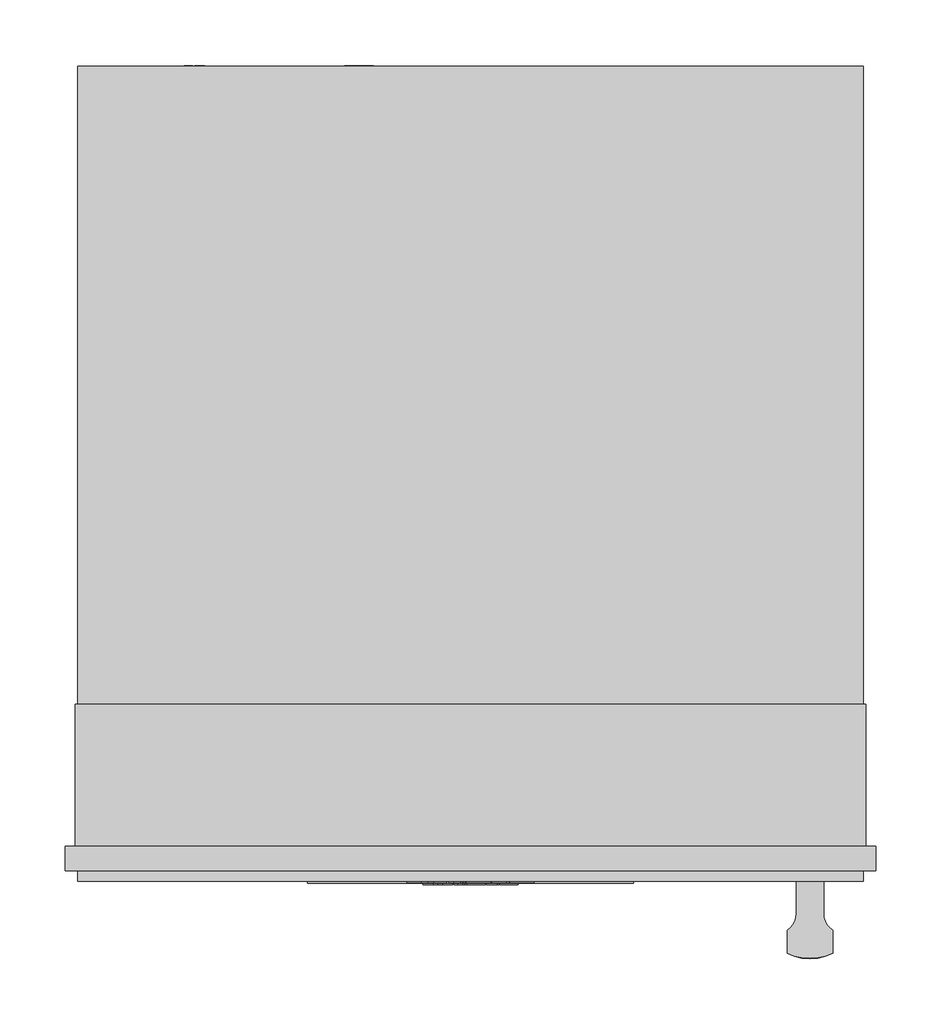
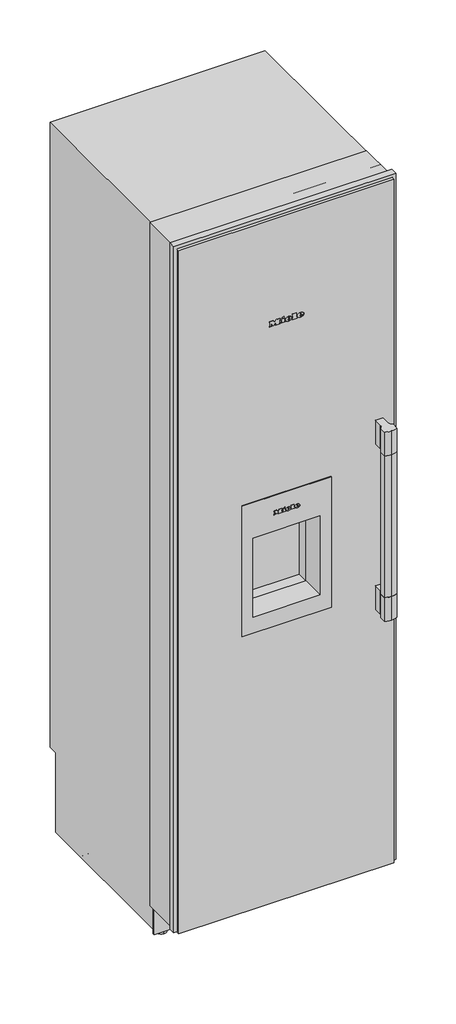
# Not in any storey: 1 proxy.
"""IFC4 building model written with IfcOpenShell, lengths in millimetres."""

from ifc_helpers import new_model, si_unit, origin, place, context, project, spatial, transform, mapped, element, save
from components import specialty_equipment_fe4ad40c

model = new_model("IFC4")

# Units and contexts
model_context = context("Model", 3, world=origin())
ifc_project = project(units=[si_unit("LENGTHUNIT", "METRE", prefix="MILLI")], contexts=[model_context])

# Site, building
site = spatial("IfcSite", under=ifc_project)
building = spatial("IfcBuilding", under=site)

# Proxy
placement = place(None, origin())
specialty_equipment_shape = specialty_equipment_fe4ad40c(model_context)
element("IfcBuildingElementProxy", 1, Name="11503570_USA_F2672SF : 37267211_USA_11503570_F2672SF", ObjectType="11503570_USA_F2672SF : 37267211_USA_11503570_F2672SF", at=placement, inside=building, context=model_context, shape_type="MappedRepresentation", body=[
    mapped(specialty_equipment_shape, transform((0.0, 0.0, 0.0), x_axis=(1.0, 0.0, 0.0), y_axis=(0.0, 1.0, 0.0), z_axis=(0.0, 0.0, 1.0))),
])

save(model, "model.ifc")
